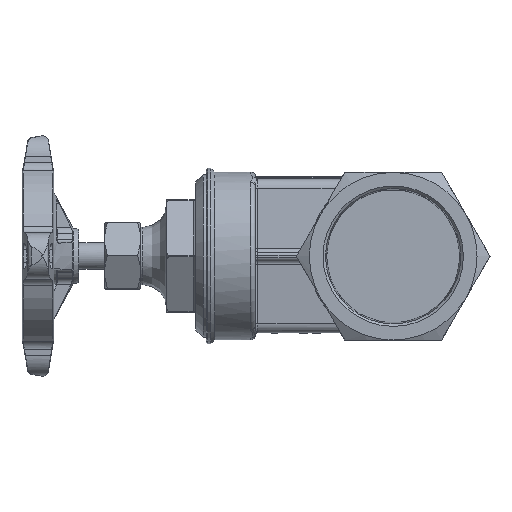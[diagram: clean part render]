
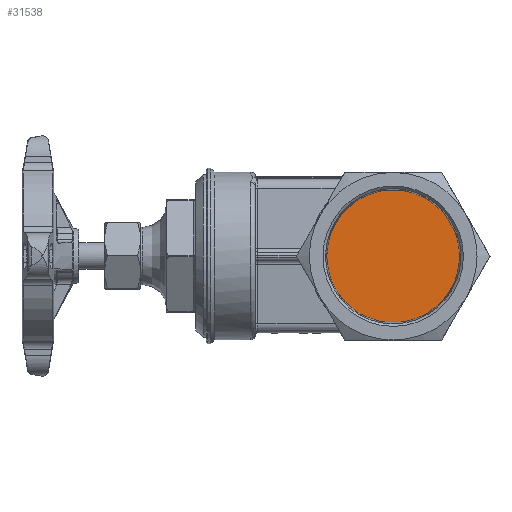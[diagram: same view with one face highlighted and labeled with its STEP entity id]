
A CAD part, left-side view. The second image highlights one B-rep face of the part: STEP entity #31538.
In plain terms, the highlighted planar face has unit normal (-1, 0, 0).
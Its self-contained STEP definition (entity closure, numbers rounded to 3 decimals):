
#31515=CARTESIAN_POINT('',(15.9,-27.745,0.0));
#31516=VERTEX_POINT('',#31515);
#31517=CARTESIAN_POINT('',(15.9,0.,0.0));
#31518=DIRECTION('',(-1.0,0.0,0.0));
#31519=DIRECTION('',(0.0,-1.0,0.0));
#31520=AXIS2_PLACEMENT_3D('',#31517,#31518,#31519);
#31521=CIRCLE('',#31520,27.745);
#31522=EDGE_CURVE('',#31516,#31516,#31521,.T.);
#31530=CARTESIAN_POINT('',(15.9,-13.872,0.0));
#31531=DIRECTION('',(-1.0,0.0,0.0));
#31532=DIRECTION('',(0.0,0.0,1.0));
#31533=AXIS2_PLACEMENT_3D('',#31530,#31531,#31532);
#31534=PLANE('',#31533);
#31535=ORIENTED_EDGE('',*,*,#31522,.T.);
#31536=EDGE_LOOP('',(#31535));
#31537=FACE_OUTER_BOUND('',#31536,.T.);
#31538=ADVANCED_FACE('',(#31537),#31534,.T.);
